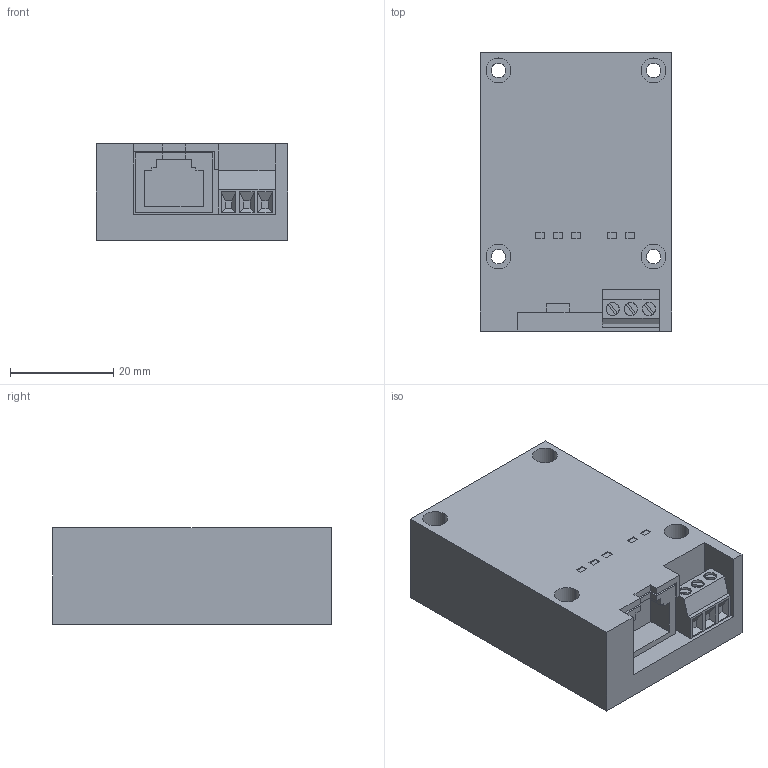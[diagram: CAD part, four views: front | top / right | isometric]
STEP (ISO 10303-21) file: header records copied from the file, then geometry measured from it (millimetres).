
FILE_DESCRIPTION (( 'STEP AP214' ), '1' );
FILE_NAME ('afpx-com5.step', '2009-08-28T01:49:32', ( '' ), ( 'PanasonicElectricWorks' ), '', '', '' );
FILE_SCHEMA (( 'AUTOMOTIVE_DESIGN' ));
Length unit declared in the file: millimetre
Products named in the file (1): afpx-com5
Bounding box: 37 x 53.8 x 18.6 mm (x, y, z)
Volume: 29224.8 mm3; surface area: 9704.2 mm2
Topology: 1 solids, 1 shells, 141 faces, 366 edges, 244 vertices
Faces by surface type: plane 113, cylinder 28
Entity records: 5878 total; most frequent: CARTESIAN_POINT 752, ORIENTED_EDGE 732, DIRECTION 718, EDGE_CURVE 366, VECTOR 298, LINE 298, VERTEX_POINT 244, AXIS2_PLACEMENT_3D 210
